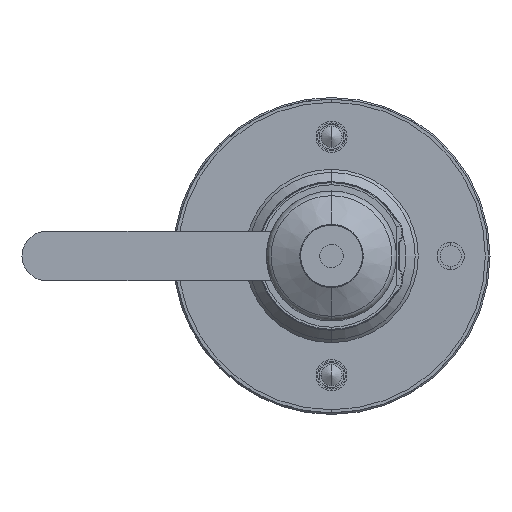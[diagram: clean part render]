
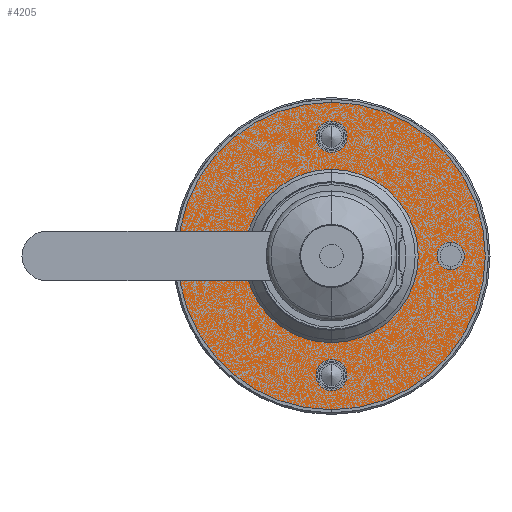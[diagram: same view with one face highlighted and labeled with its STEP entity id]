
A CAD part, front view. The second image highlights one B-rep face of the part: STEP entity #4205.
In plain terms, the highlighted planar face has unit normal (0, -1, 0) as drawn and (0, 0, -1) by its records, which use the part's own axes.
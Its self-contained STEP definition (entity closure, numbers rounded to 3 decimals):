
#11 = DIRECTION ( 'NONE',  ( 0., 0., 1. ) ) ;
#676 = EDGE_CURVE ( 'NONE', #8809, #8553, #15820, .T. ) ;
#1006 = CARTESIAN_POINT ( 'NONE',  ( 33.5, 0., 0. ) ) ;
#1099 = AXIS2_PLACEMENT_3D ( 'NONE', #3381, #29262, #12671 ) ;
#1267 = DIRECTION ( 'NONE',  ( 0., 0., 1. ) ) ;
#1697 = PLANE ( 'NONE',  #14170 ) ;
#1899 = EDGE_CURVE ( 'NONE', #6584, #21258, #2263, .T. ) ;
#2028 = CIRCLE ( 'NONE', #18074, 5. ) ;
#2263 = CIRCLE ( 'NONE', #19291, 5. ) ;
#2452 = ORIENTED_EDGE ( 'NONE', *, *, #5690, .T. ) ;
#2685 = CARTESIAN_POINT ( 'NONE',  ( -22., 0., 0. ) ) ;
#2896 = DIRECTION ( 'NONE',  ( 0., 0., 1. ) ) ;
#3131 = CARTESIAN_POINT ( 'NONE',  ( 0., 0., 0. ) ) ;
#3189 = ORIENTED_EDGE ( 'NONE', *, *, #19310, .T. ) ;
#3222 = ORIENTED_EDGE ( 'NONE', *, *, #24351, .T. ) ;
#3250 = CARTESIAN_POINT ( 'NONE',  ( 0., 0., 0. ) ) ;
#3278 = DIRECTION ( 'NONE',  ( -1., 0., 0. ) ) ;
#3381 = CARTESIAN_POINT ( 'NONE',  ( -38.5, 0., 0. ) ) ;
#3445 = VERTEX_POINT ( 'NONE', #5763 ) ;
#3894 = VERTEX_POINT ( 'NONE', #24121 ) ;
#4043 = CIRCLE ( 'NONE', #29250, 5. ) ;
#4193 = EDGE_LOOP ( 'NONE', ( #29325, #3222 ) ) ;
#4205 = ADVANCED_FACE ( 'NONE', ( #8564, #10684, #10840, #17844, #27120, #15560 ), #1697, .T. ) ;
#4597 = DIRECTION ( 'NONE',  ( 0., 0., 1. ) ) ;
#4933 = EDGE_CURVE ( 'NONE', #21258, #6584, #2028, .T. ) ;
#5524 = DIRECTION ( 'NONE',  ( 1., 0., 0. ) ) ;
#5690 = EDGE_CURVE ( 'NONE', #13014, #3894, #14192, .T. ) ;
#5763 = CARTESIAN_POINT ( 'NONE',  ( 4.4, 38.5, 0. ) ) ;
#6061 = AXIS2_PLACEMENT_3D ( 'NONE', #13900, #23169, #16465 ) ;
#6105 = AXIS2_PLACEMENT_3D ( 'NONE', #23286, #2896, #9593 ) ;
#6410 = CIRCLE ( 'NONE', #21985, 4.4 ) ;
#6584 = VERTEX_POINT ( 'NONE', #1006 ) ;
#6894 = DIRECTION ( 'NONE',  ( -1., 0., 0. ) ) ;
#7138 = DIRECTION ( 'NONE',  ( -1., 0., 0. ) ) ;
#7346 = EDGE_CURVE ( 'NONE', #3894, #13014, #4043, .T. ) ;
#7522 = VERTEX_POINT ( 'NONE', #19379 ) ;
#8207 = CARTESIAN_POINT ( 'NONE',  ( 22., 0., 0. ) ) ;
#8553 = VERTEX_POINT ( 'NONE', #8207 ) ;
#8564 = FACE_OUTER_BOUND ( 'NONE', #18944, .T. ) ;
#8706 = DIRECTION ( 'NONE',  ( -1., 0., 0. ) ) ;
#8809 = VERTEX_POINT ( 'NONE', #2685 ) ;
#8810 = AXIS2_PLACEMENT_3D ( 'NONE', #16333, #4597, #13912 ) ;
#9485 = CARTESIAN_POINT ( 'NONE',  ( -38.5, 0., 0. ) ) ;
#9524 = CARTESIAN_POINT ( 'NONE',  ( 43.5, 0., 0. ) ) ;
#9593 = DIRECTION ( 'NONE',  ( 1., 0., 0. ) ) ;
#9977 = DIRECTION ( 'NONE',  ( 0., 0., 1. ) ) ;
#10684 = FACE_BOUND ( 'NONE', #4193, .T. ) ;
#10840 = FACE_BOUND ( 'NONE', #14677, .T. ) ;
#10885 = CIRCLE ( 'NONE', #22552, 49.675 ) ;
#12030 = CARTESIAN_POINT ( 'NONE',  ( 0., 38.5, 0. ) ) ;
#12269 = DIRECTION ( 'NONE',  ( 0., 0., -1. ) ) ;
#12667 = EDGE_CURVE ( 'NONE', #7522, #26727, #15632, .T. ) ;
#12671 = DIRECTION ( 'NONE',  ( -1., 0., 0. ) ) ;
#13014 = VERTEX_POINT ( 'NONE', #13571 ) ;
#13461 = EDGE_CURVE ( 'NONE', #8553, #8809, #21978, .T. ) ;
#13571 = CARTESIAN_POINT ( 'NONE',  ( -33.5, 0., 0. ) ) ;
#13593 = VERTEX_POINT ( 'NONE', #17708 ) ;
#13894 = ORIENTED_EDGE ( 'NONE', *, *, #21843, .T. ) ;
#13900 = CARTESIAN_POINT ( 'NONE',  ( 0., 38.5, 0. ) ) ;
#13912 = DIRECTION ( 'NONE',  ( -1., 0., 0. ) ) ;
#14170 = AXIS2_PLACEMENT_3D ( 'NONE', #20262, #29556, #8706 ) ;
#14192 = CIRCLE ( 'NONE', #1099, 5. ) ;
#14296 = ORIENTED_EDGE ( 'NONE', *, *, #4933, .T. ) ;
#14677 = EDGE_LOOP ( 'NONE', ( #3189, #22020 ) ) ;
#14779 = DIRECTION ( 'NONE',  ( 0., 0., 1. ) ) ;
#15148 = CARTESIAN_POINT ( 'NONE',  ( 38.5, 0., 0. ) ) ;
#15560 = FACE_BOUND ( 'NONE', #15939, .T. ) ;
#15632 = CIRCLE ( 'NONE', #16578, 49.675 ) ;
#15820 = CIRCLE ( 'NONE', #6105, 22. ) ;
#15939 = EDGE_LOOP ( 'NONE', ( #19124, #28725 ) ) ;
#16279 = VERTEX_POINT ( 'NONE', #17675 ) ;
#16287 = CARTESIAN_POINT ( 'NONE',  ( 0., 0., 0. ) ) ;
#16333 = CARTESIAN_POINT ( 'NONE',  ( 0., -38.5, 0. ) ) ;
#16465 = DIRECTION ( 'NONE',  ( -1., 0., 0. ) ) ;
#16578 = AXIS2_PLACEMENT_3D ( 'NONE', #3131, #12269, #23817 ) ;
#17202 = CIRCLE ( 'NONE', #23994, 4.4 ) ;
#17494 = EDGE_LOOP ( 'NONE', ( #22628, #14296 ) ) ;
#17545 = EDGE_CURVE ( 'NONE', #16279, #23567, #19490, .T. ) ;
#17675 = CARTESIAN_POINT ( 'NONE',  ( -4.4, -38.5, 0. ) ) ;
#17708 = CARTESIAN_POINT ( 'NONE',  ( -4.4, 38.5, 0. ) ) ;
#17844 = FACE_BOUND ( 'NONE', #17494, .T. ) ;
#18074 = AXIS2_PLACEMENT_3D ( 'NONE', #15148, #9977, #3278 ) ;
#18944 = EDGE_LOOP ( 'NONE', ( #27987, #13894 ) ) ;
#19034 = ORIENTED_EDGE ( 'NONE', *, *, #7346, .T. ) ;
#19124 = ORIENTED_EDGE ( 'NONE', *, *, #13461, .T. ) ;
#19291 = AXIS2_PLACEMENT_3D ( 'NONE', #24962, #20102, #29395 ) ;
#19310 = EDGE_CURVE ( 'NONE', #13593, #3445, #6410, .T. ) ;
#19379 = CARTESIAN_POINT ( 'NONE',  ( 49.675, 0., 0. ) ) ;
#19490 = CIRCLE ( 'NONE', #8810, 4.4 ) ;
#20008 = AXIS2_PLACEMENT_3D ( 'NONE', #3250, #1267, #5524 ) ;
#20102 = DIRECTION ( 'NONE',  ( 0., 0., 1. ) ) ;
#20262 = CARTESIAN_POINT ( 'NONE',  ( 22., 0., 0. ) ) ;
#20852 = DIRECTION ( 'NONE',  ( 0., 0., -1. ) ) ;
#21258 = VERTEX_POINT ( 'NONE', #9524 ) ;
#21843 = EDGE_CURVE ( 'NONE', #26727, #7522, #10885, .T. ) ;
#21978 = CIRCLE ( 'NONE', #20008, 22. ) ;
#21985 = AXIS2_PLACEMENT_3D ( 'NONE', #12030, #14779, #28930 ) ;
#22020 = ORIENTED_EDGE ( 'NONE', *, *, #27219, .T. ) ;
#22552 = AXIS2_PLACEMENT_3D ( 'NONE', #16287, #20852, #7138 ) ;
#22628 = ORIENTED_EDGE ( 'NONE', *, *, #1899, .T. ) ;
#22857 = CARTESIAN_POINT ( 'NONE',  ( 0., -38.5, 0. ) ) ;
#23169 = DIRECTION ( 'NONE',  ( 0., 0., 1. ) ) ;
#23286 = CARTESIAN_POINT ( 'NONE',  ( 0., 0., 0. ) ) ;
#23567 = VERTEX_POINT ( 'NONE', #25657 ) ;
#23817 = DIRECTION ( 'NONE',  ( -1., 0., 0. ) ) ;
#23994 = AXIS2_PLACEMENT_3D ( 'NONE', #22857, #11, #25437 ) ;
#24121 = CARTESIAN_POINT ( 'NONE',  ( -43.5, 0., 0. ) ) ;
#24351 = EDGE_CURVE ( 'NONE', #23567, #16279, #17202, .T. ) ;
#24962 = CARTESIAN_POINT ( 'NONE',  ( 38.5, 0., 0. ) ) ;
#25437 = DIRECTION ( 'NONE',  ( -1., 0., 0. ) ) ;
#25657 = CARTESIAN_POINT ( 'NONE',  ( 4.4, -38.5, 0. ) ) ;
#26727 = VERTEX_POINT ( 'NONE', #28543 ) ;
#26970 = CIRCLE ( 'NONE', #6061, 4.4 ) ;
#27120 = FACE_BOUND ( 'NONE', #29207, .T. ) ;
#27219 = EDGE_CURVE ( 'NONE', #3445, #13593, #26970, .T. ) ;
#27897 = DIRECTION ( 'NONE',  ( 0., 0., 1. ) ) ;
#27987 = ORIENTED_EDGE ( 'NONE', *, *, #12667, .T. ) ;
#28543 = CARTESIAN_POINT ( 'NONE',  ( -49.675, 0., 0. ) ) ;
#28725 = ORIENTED_EDGE ( 'NONE', *, *, #676, .T. ) ;
#28930 = DIRECTION ( 'NONE',  ( -1., 0., 0. ) ) ;
#29207 = EDGE_LOOP ( 'NONE', ( #19034, #2452 ) ) ;
#29250 = AXIS2_PLACEMENT_3D ( 'NONE', #9485, #27897, #6894 ) ;
#29262 = DIRECTION ( 'NONE',  ( 0., 0., 1. ) ) ;
#29325 = ORIENTED_EDGE ( 'NONE', *, *, #17545, .T. ) ;
#29395 = DIRECTION ( 'NONE',  ( -1., 0., 0. ) ) ;
#29556 = DIRECTION ( 'NONE',  ( 0., 0., -1. ) ) ;
